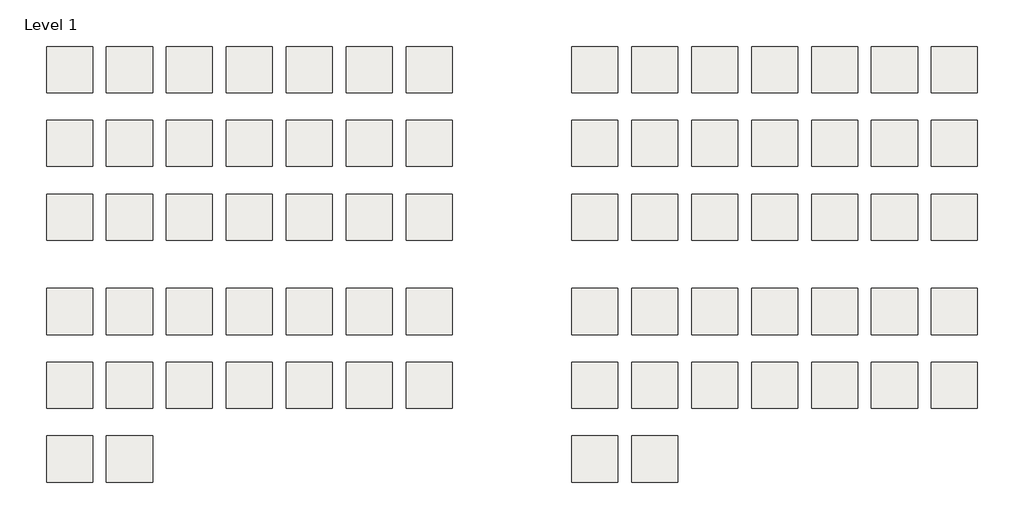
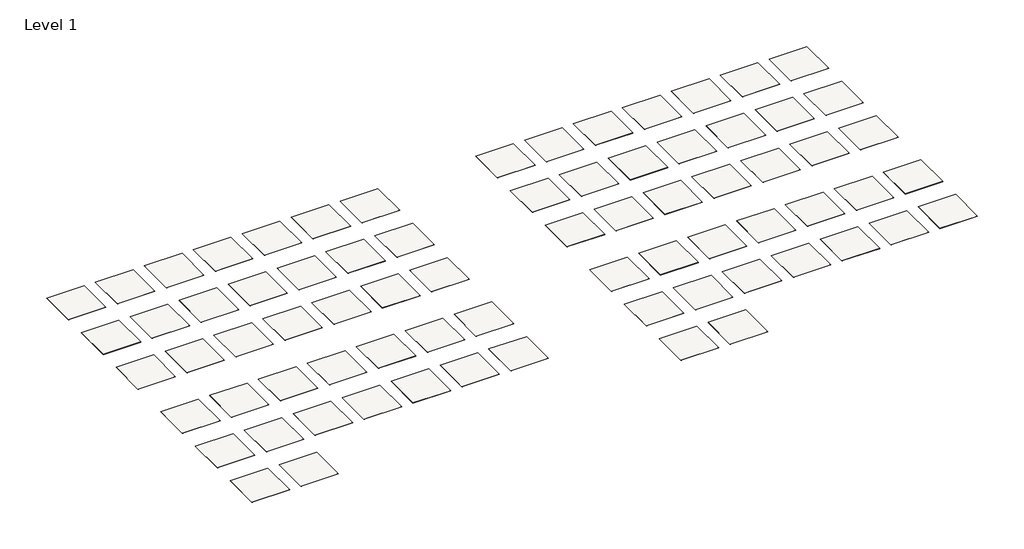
# One storey: 74 slabs.
"""IFC4 building model written with IfcOpenShell, lengths in millimetres."""

from ifc_helpers import new_model, si_unit, frame, origin, place, context, project, spatial, polyline, outline, extrude, element, save

model = new_model("IFC4")

# Units and contexts
model_context = context("Model", 3, world=origin())
ifc_project = project(units=[si_unit("LENGTHUNIT", "METRE", prefix="MILLI")], contexts=[model_context])

# Site, building, storey
site = spatial("IfcSite", under=ifc_project)
building = spatial("IfcBuilding", under=site)
storey = spatial("IfcBuildingStorey", under=building, Name="Level 1", Elevation=0.0)

# Slabs
placement = place(None, origin())
element("IfcSlab", 1, ObjectType="Armstrong_VCT_Excelon Stonetex_52127 stone white", at=placement, inside=storey, context=model_context, shape_type="SweptSolid", body=[
    extrude(outline(polyline([(3311.6055838, 2884.7695431), (3311.6055838, 1360.7695431), (1787.6055838, 1360.7695431), (1787.6055838, 2884.7695431), (3311.6055838, 2884.7695431)])), frame((0.0, 0.0, -1.984375), z_axis=(0.0, 0.0, 1.0), x_axis=(1.0, 0.0, 0.0)), (0.0, 0.0, 1.0), 1.984375),
])
element("IfcSlab", 2, ObjectType="Armstrong_VCT_Excelon Stonetex_52140 chalk white", at=placement, inside=storey, context=model_context, shape_type="SweptSolid", body=[
    extrude(outline(polyline([(5292.8055838, 2884.7695431), (5292.8055838, 1360.7695431), (3768.8055838, 1360.7695431), (3768.8055838, 2884.7695431), (5292.8055838, 2884.7695431)])), frame((0.0, 0.0, -1.984375), z_axis=(0.0, 0.0, 1.0), x_axis=(1.0, 0.0, 0.0)), (0.0, 0.0, 1.0), 1.984375),
])
element("IfcSlab", 3, ObjectType="Armstrong_VCT_Excelon Stonetex_52125 granite gray", at=placement, inside=storey, context=model_context, shape_type="SweptSolid", body=[
    extrude(outline(polyline([(7274.0055838, 2884.7695431), (7274.0055838, 1360.7695431), (5750.0055838, 1360.7695431), (5750.0055838, 2884.7695431), (7274.0055838, 2884.7695431)])), frame((0.0, 0.0, -1.984375), z_axis=(0.0, 0.0, 1.0), x_axis=(1.0, 0.0, 0.0)), (0.0, 0.0, 1.0), 1.984375),
])
element("IfcSlab", 4, ObjectType="Armstrong_VCT_Excelon Stonetex_52122 pebble gray", at=placement, inside=storey, context=model_context, shape_type="SweptSolid", body=[
    extrude(outline(polyline([(9255.2055838, 2884.7695431), (9255.2055838, 1360.7695431), (7731.2055838, 1360.7695431), (7731.2055838, 2884.7695431), (9255.2055838, 2884.7695431)])), frame((0.0, 0.0, -1.984375), z_axis=(0.0, 0.0, 1.0), x_axis=(1.0, 0.0, 0.0)), (0.0, 0.0, 1.0), 1.984375),
])
element("IfcSlab", 5, ObjectType="Armstrong_VCT_Excelon Stonetex_52143 sandstone tan", at=placement, inside=storey, context=model_context, shape_type="SweptSolid", body=[
    extrude(outline(polyline([(11236.4055838, 2884.7695431), (11236.4055838, 1360.7695431), (9712.4055838, 1360.7695431), (9712.4055838, 2884.7695431), (11236.4055838, 2884.7695431)])), frame((0.0, 0.0, -1.984375), z_axis=(0.0, 0.0, 1.0), x_axis=(1.0, 0.0, 0.0)), (0.0, 0.0, 1.0), 1.984375),
])
element("IfcSlab", 6, ObjectType="Armstrong_VCT_Excelon Stonetex_52128 desert dust", at=placement, inside=storey, context=model_context, shape_type="SweptSolid", body=[
    extrude(outline(polyline([(13217.6055838, 2884.7695431), (13217.6055838, 1360.7695431), (11693.6055838, 1360.7695431), (11693.6055838, 2884.7695431), (13217.6055838, 2884.7695431)])), frame((0.0, 0.0, -1.984375), z_axis=(0.0, 0.0, 1.0), x_axis=(1.0, 0.0, 0.0)), (0.0, 0.0, 1.0), 1.984375),
])
element("IfcSlab", 7, ObjectType="Armstrong_VCT_Excelon Stonetex_52165 milky way", at=placement, inside=storey, context=model_context, shape_type="SweptSolid", body=[
    extrude(outline(polyline([(15198.8055838, 2884.7695431), (15198.8055838, 1360.7695431), (13674.8055838, 1360.7695431), (13674.8055838, 2884.7695431), (15198.8055838, 2884.7695431)])), frame((0.0, 0.0, -1.984375), z_axis=(0.0, 0.0, 1.0), x_axis=(1.0, 0.0, 0.0)), (0.0, 0.0, 1.0), 1.984375),
])
element("IfcSlab", 8, ObjectType="Armstrong_VCT_Excelon Stonetex_52139 limestone beige", at=placement, inside=storey, context=model_context, shape_type="SweptSolid", body=[
    extrude(outline(polyline([(3311.6055838, 446.3695431), (3311.6055838, -1077.6304569), (1787.6055838, -1077.6304569), (1787.6055838, 446.3695431), (3311.6055838, 446.3695431)])), frame((0.0, 0.0, -1.984375), z_axis=(0.0, 0.0, 1.0), x_axis=(1.0, 0.0, 0.0)), (0.0, 0.0, 1.0), 1.984375),
])
element("IfcSlab", 9, ObjectType="Armstrong_VCT_Excelon Stonetex_52126 gravel blue", at=placement, inside=storey, context=model_context, shape_type="SweptSolid", body=[
    extrude(outline(polyline([(5292.8055838, 446.3695431), (5292.8055838, -1077.6304569), (3768.8055838, -1077.6304569), (3768.8055838, 446.3695431), (5292.8055838, 446.3695431)])), frame((0.0, 0.0, -1.984375), z_axis=(0.0, 0.0, 1.0), x_axis=(1.0, 0.0, 0.0)), (0.0, 0.0, 1.0), 1.984375),
])
element("IfcSlab", 10, ObjectType="Armstrong_VCT_Excelon Stonetex_52161 charcoal", at=placement, inside=storey, context=model_context, shape_type="SweptSolid", body=[
    extrude(outline(polyline([(7274.0055838, 446.3695431), (7274.0055838, -1077.6304569), (5750.0055838, -1077.6304569), (5750.0055838, 446.3695431), (7274.0055838, 446.3695431)])), frame((0.0, 0.0, -1.984375), z_axis=(0.0, 0.0, 1.0), x_axis=(1.0, 0.0, 0.0)), (0.0, 0.0, 1.0), 1.984375),
])
element("IfcSlab", 11, ObjectType="Armstrong_VCT_Excelon Stonetex_52149 cocoa brown", at=placement, inside=storey, context=model_context, shape_type="SweptSolid", body=[
    extrude(outline(polyline([(9255.2055838, 446.3695431), (9255.2055838, -1077.6304569), (7731.2055838, -1077.6304569), (7731.2055838, 446.3695431), (9255.2055838, 446.3695431)])), frame((0.0, 0.0, -3.175), z_axis=(0.0, 0.0, 1.0), x_axis=(1.0, 0.0, 0.0)), (0.0, 0.0, 1.0), 3.175),
])
element("IfcSlab", 12, ObjectType="Armstrong_VCT_Excelon Stonetex_52168 golden fossil", at=placement, inside=storey, context=model_context, shape_type="SweptSolid", body=[
    extrude(outline(polyline([(11236.4055838, 446.3695431), (11236.4055838, -1077.6304569), (9712.4055838, -1077.6304569), (9712.4055838, 446.3695431), (11236.4055838, 446.3695431)])), frame((0.0, 0.0, -1.984375), z_axis=(0.0, 0.0, 1.0), x_axis=(1.0, 0.0, 0.0)), (0.0, 0.0, 1.0), 1.984375),
])
element("IfcSlab", 13, ObjectType="Armstrong_VCT_Excelon Stonetex_52166 mochaccino", at=placement, inside=storey, context=model_context, shape_type="SweptSolid", body=[
    extrude(outline(polyline([(13217.6055838, 446.3695431), (13217.6055838, -1077.6304569), (11693.6055838, -1077.6304569), (11693.6055838, 446.3695431), (13217.6055838, 446.3695431)])), frame((0.0, 0.0, -1.984375), z_axis=(0.0, 0.0, 1.0), x_axis=(1.0, 0.0, 0.0)), (0.0, 0.0, 1.0), 1.984375),
])
element("IfcSlab", 14, ObjectType="Armstrong_VCT_Excelon Stonetex_52156 bamboo yellow", at=placement, inside=storey, context=model_context, shape_type="SweptSolid", body=[
    extrude(outline(polyline([(15198.8055838, 446.3695431), (15198.8055838, -1077.6304569), (13674.8055838, -1077.6304569), (13674.8055838, 446.3695431), (15198.8055838, 446.3695431)])), frame((0.0, 0.0, -1.984375), z_axis=(0.0, 0.0, 1.0), x_axis=(1.0, 0.0, 0.0)), (0.0, 0.0, 1.0), 1.984375),
])
element("IfcSlab", 15, ObjectType="Armstrong_VCT_Excelon Stonetex_52160 hematite", at=placement, inside=storey, context=model_context, shape_type="SweptSolid", body=[
    extrude(outline(polyline([(3311.6055838, -1992.0304569), (3311.6055838, -3516.0304569), (1787.6055838, -3516.0304569), (1787.6055838, -1992.0304569), (3311.6055838, -1992.0304569)])), frame((0.0, 0.0, -1.984375), z_axis=(0.0, 0.0, 1.0), x_axis=(1.0, 0.0, 0.0)), (0.0, 0.0, 1.0), 1.984375),
])
element("IfcSlab", 16, ObjectType="Armstrong_VCT_Excelon Stonetex_52144 coal black", at=placement, inside=storey, context=model_context, shape_type="SweptSolid", body=[
    extrude(outline(polyline([(5292.8055838, -1992.0304569), (5292.8055838, -3516.0304569), (3768.8055838, -3516.0304569), (3768.8055838, -1992.0304569), (5292.8055838, -1992.0304569)])), frame((0.0, 0.0, -1.984375), z_axis=(0.0, 0.0, 1.0), x_axis=(1.0, 0.0, 0.0)), (0.0, 0.0, 1.0), 1.984375),
])
element("IfcSlab", 17, ObjectType="Armstrong_VCT_Excelon Stonetex_52147 pumice stone", at=placement, inside=storey, context=model_context, shape_type="SweptSolid", body=[
    extrude(outline(polyline([(7274.0055838, -1992.0304569), (7274.0055838, -3516.0304569), (5750.0055838, -3516.0304569), (5750.0055838, -1992.0304569), (7274.0055838, -1992.0304569)])), frame((0.0, 0.0, -1.984375), z_axis=(0.0, 0.0, 1.0), x_axis=(1.0, 0.0, 0.0)), (0.0, 0.0, 1.0), 1.984375),
])
element("IfcSlab", 18, ObjectType="Armstrong_VCT_Excelon Stonetex_52164 dark chocolate", at=placement, inside=storey, context=model_context, shape_type="SweptSolid", body=[
    extrude(outline(polyline([(9255.2055838, -1992.0304569), (9255.2055838, -3516.0304569), (7731.2055838, -3516.0304569), (7731.2055838, -1992.0304569), (9255.2055838, -1992.0304569)])), frame((0.0, 0.0, -1.984375), z_axis=(0.0, 0.0, 1.0), x_axis=(1.0, 0.0, 0.0)), (0.0, 0.0, 1.0), 1.984375),
])
element("IfcSlab", 19, ObjectType="Armstrong_VCT_Excelon Stonetex_52169 ammonite", at=placement, inside=storey, context=model_context, shape_type="SweptSolid", body=[
    extrude(outline(polyline([(11236.4055838, -1992.0304569), (11236.4055838, -3516.0304569), (9712.4055838, -3516.0304569), (9712.4055838, -1992.0304569), (11236.4055838, -1992.0304569)])), frame((0.0, 0.0, -1.984375), z_axis=(0.0, 0.0, 1.0), x_axis=(1.0, 0.0, 0.0)), (0.0, 0.0, 1.0), 1.984375),
])
element("IfcSlab", 20, ObjectType="Armstrong_VCT_Excelon Stonetex_52167 semi sweet", at=placement, inside=storey, context=model_context, shape_type="SweptSolid", body=[
    extrude(outline(polyline([(13217.6055838, -1992.0304569), (13217.6055838, -3516.0304569), (11693.6055838, -3516.0304569), (11693.6055838, -1992.0304569), (13217.6055838, -1992.0304569)])), frame((0.0, 0.0, -1.984375), z_axis=(0.0, 0.0, 1.0), x_axis=(1.0, 0.0, 0.0)), (0.0, 0.0, 1.0), 1.984375),
])
element("IfcSlab", 21, ObjectType="Armstrong_VCT_Excelon Stonetex_52170 golden bamboo", at=placement, inside=storey, context=model_context, shape_type="SweptSolid", body=[
    extrude(outline(polyline([(15198.8055838, -1992.0304569), (15198.8055838, -3516.0304569), (13674.8055838, -3516.0304569), (13674.8055838, -1992.0304569), (15198.8055838, -1992.0304569)])), frame((0.0, 0.0, -1.984375), z_axis=(0.0, 0.0, 1.0), x_axis=(1.0, 0.0, 0.0)), (0.0, 0.0, 1.0), 1.984375),
])
element("IfcSlab", 22, ObjectType="Armstrong_VCT_Excelon Stonetex_52172 chamotte", at=placement, inside=storey, context=model_context, shape_type="SweptSolid", body=[
    extrude(outline(polyline([(3311.6055838, -5116.2304569), (3311.6055838, -6640.2304569), (1787.6055838, -6640.2304569), (1787.6055838, -5116.2304569), (3311.6055838, -5116.2304569)])), frame((0.0, 0.0, -1.984375), z_axis=(0.0, 0.0, 1.0), x_axis=(1.0, 0.0, 0.0)), (0.0, 0.0, 1.0), 1.984375),
])
element("IfcSlab", 23, ObjectType="Armstrong_VCT_Excelon Stonetex_52148 blue spruce", at=placement, inside=storey, context=model_context, shape_type="SweptSolid", body=[
    extrude(outline(polyline([(5292.8055838, -5116.2304569), (5292.8055838, -6640.2304569), (3768.8055838, -6640.2304569), (3768.8055838, -5116.2304569), (5292.8055838, -5116.2304569)])), frame((0.0, 0.0, -1.984375), z_axis=(0.0, 0.0, 1.0), x_axis=(1.0, 0.0, 0.0)), (0.0, 0.0, 1.0), 1.984375),
])
element("IfcSlab", 24, ObjectType="Armstrong_VCT_Excelon Stonetex_52180 spanish moss", at=placement, inside=storey, context=model_context, shape_type="SweptSolid", body=[
    extrude(outline(polyline([(7274.0055838, -5116.2304569), (7274.0055838, -6640.2304569), (5750.0055838, -6640.2304569), (5750.0055838, -5116.2304569), (7274.0055838, -5116.2304569)])), frame((0.0, 0.0, -1.984375), z_axis=(0.0, 0.0, 1.0), x_axis=(1.0, 0.0, 0.0)), (0.0, 0.0, 1.0), 1.984375),
])
element("IfcSlab", 25, ObjectType="Armstrong_VCT_Excelon Stonetex_52173 unfired clay", at=placement, inside=storey, context=model_context, shape_type="SweptSolid", body=[
    extrude(outline(polyline([(9255.2055838, -5116.2304569), (9255.2055838, -6640.2304569), (7731.2055838, -6640.2304569), (7731.2055838, -5116.2304569), (9255.2055838, -5116.2304569)])), frame((0.0, 0.0, -1.984375), z_axis=(0.0, 0.0, 1.0), x_axis=(1.0, 0.0, 0.0)), (0.0, 0.0, 1.0), 1.984375),
])
element("IfcSlab", 26, ObjectType="Armstrong_VCT_Excelon Stonetex_52135 mineral dust", at=placement, inside=storey, context=model_context, shape_type="SweptSolid", body=[
    extrude(outline(polyline([(11236.4055838, -5116.2304569), (11236.4055838, -6640.2304569), (9712.4055838, -6640.2304569), (9712.4055838, -5116.2304569), (11236.4055838, -5116.2304569)])), frame((0.0, 0.0, -1.984375), z_axis=(0.0, 0.0, 1.0), x_axis=(1.0, 0.0, 0.0)), (0.0, 0.0, 1.0), 1.984375),
])
element("IfcSlab", 27, ObjectType="Armstrong_VCT_Excelon Stonetex_52155 forest moss", at=placement, inside=storey, context=model_context, shape_type="SweptSolid", body=[
    extrude(outline(polyline([(13217.6055838, -5116.2304569), (13217.6055838, -6640.2304569), (11693.6055838, -6640.2304569), (11693.6055838, -5116.2304569), (13217.6055838, -5116.2304569)])), frame((0.0, 0.0, -1.984375), z_axis=(0.0, 0.0, 1.0), x_axis=(1.0, 0.0, 0.0)), (0.0, 0.0, 1.0), 1.984375),
])
element("IfcSlab", 28, ObjectType="Armstrong_VCT_Excelon Stonetex_52157 clay red", at=placement, inside=storey, context=model_context, shape_type="SweptSolid", body=[
    extrude(outline(polyline([(15198.8055838, -5116.2304569), (15198.8055838, -6640.2304569), (13674.8055838, -6640.2304569), (13674.8055838, -5116.2304569), (15198.8055838, -5116.2304569)])), frame((0.0, 0.0, -1.984375), z_axis=(0.0, 0.0, 1.0), x_axis=(1.0, 0.0, 0.0)), (0.0, 0.0, 1.0), 1.984375),
])
element("IfcSlab", 29, ObjectType="Armstrong_VCT_Excelon Stonetex_52179 black jewel orchid", at=placement, inside=storey, context=model_context, shape_type="SweptSolid", body=[
    extrude(outline(polyline([(3311.6055838, -7554.6304569), (3311.6055838, -9078.6304569), (1787.6055838, -9078.6304569), (1787.6055838, -7554.6304569), (3311.6055838, -7554.6304569)])), frame((0.0, 0.0, -1.984375), z_axis=(0.0, 0.0, 1.0), x_axis=(1.0, 0.0, 0.0)), (0.0, 0.0, 1.0), 1.984375),
])
element("IfcSlab", 30, ObjectType="Armstrong_VCT_Excelon Stonetex_52148 blue spruce", at=placement, inside=storey, context=model_context, shape_type="SweptSolid", body=[
    extrude(outline(polyline([(5292.8055838, -7554.6304569), (5292.8055838, -9078.6304569), (3768.8055838, -9078.6304569), (3768.8055838, -7554.6304569), (5292.8055838, -7554.6304569)])), frame((0.0, 0.0, -1.984375), z_axis=(0.0, 0.0, 1.0), x_axis=(1.0, 0.0, 0.0)), (0.0, 0.0, 1.0), 1.984375),
])
element("IfcSlab", 31, ObjectType="Armstrong_VCT_Excelon Stonetex_52154 leaf green", at=placement, inside=storey, context=model_context, shape_type="SweptSolid", body=[
    extrude(outline(polyline([(7274.0055838, -7554.6304569), (7274.0055838, -9078.6304569), (5750.0055838, -9078.6304569), (5750.0055838, -7554.6304569), (7274.0055838, -7554.6304569)])), frame((0.0, 0.0, -1.984375), z_axis=(0.0, 0.0, 1.0), x_axis=(1.0, 0.0, 0.0)), (0.0, 0.0, 1.0), 1.984375),
])
element("IfcSlab", 32, ObjectType="Armstrong_VCT_Excelon Stonetex_52183 golden honey", at=placement, inside=storey, context=model_context, shape_type="SweptSolid", body=[
    extrude(outline(polyline([(9255.2055838, -7554.6304569), (9255.2055838, -9078.6304569), (7731.2055838, -9078.6304569), (7731.2055838, -7554.6304569), (9255.2055838, -7554.6304569)])), frame((0.0, 0.0, -1.984375), z_axis=(0.0, 0.0, 1.0), x_axis=(1.0, 0.0, 0.0)), (0.0, 0.0, 1.0), 1.984375),
])
element("IfcSlab", 33, ObjectType="Armstrong_VCT_Excelon Stonetex_52186 hermit shale", at=placement, inside=storey, context=model_context, shape_type="SweptSolid", body=[
    extrude(outline(polyline([(11236.4055838, -7554.6304569), (11236.4055838, -9078.6304569), (9712.4055838, -9078.6304569), (9712.4055838, -7554.6304569), (11236.4055838, -7554.6304569)])), frame((0.0, 0.0, -1.984375), z_axis=(0.0, 0.0, 1.0), x_axis=(1.0, 0.0, 0.0)), (0.0, 0.0, 1.0), 1.984375),
])
element("IfcSlab", 34, ObjectType="Armstrong_VCT_Excelon Stonetex_52189 roman clay", at=placement, inside=storey, context=model_context, shape_type="SweptSolid", body=[
    extrude(outline(polyline([(13217.6055838, -7554.6304569), (13217.6055838, -9078.6304569), (11693.6055838, -9078.6304569), (11693.6055838, -7554.6304569), (13217.6055838, -7554.6304569)])), frame((0.0, 0.0, -1.984375), z_axis=(0.0, 0.0, 1.0), x_axis=(1.0, 0.0, 0.0)), (0.0, 0.0, 1.0), 1.984375),
])
element("IfcSlab", 35, ObjectType="Armstrong_VCT_Excelon Stonetex_52194 lapis", at=placement, inside=storey, context=model_context, shape_type="SweptSolid", body=[
    extrude(outline(polyline([(15198.8055838, -7554.6304569), (15198.8055838, -9078.6304569), (13674.8055838, -9078.6304569), (13674.8055838, -7554.6304569), (15198.8055838, -7554.6304569)])), frame((0.0, 0.0, -1.984375), z_axis=(0.0, 0.0, 1.0), x_axis=(1.0, 0.0, 0.0)), (0.0, 0.0, 1.0), 1.984375),
])
element("IfcSlab", 36, ObjectType="Armstrong_VCT_Excelon Stonetex_52199 iguana", at=placement, inside=storey, context=model_context, shape_type="SweptSolid", body=[
    extrude(outline(polyline([(3311.6055838, -9993.0304569), (3311.6055838, -11517.0304569), (1787.6055838, -11517.0304569), (1787.6055838, -9993.0304569), (3311.6055838, -9993.0304569)])), frame((0.0, 0.0, -1.984375), z_axis=(0.0, 0.0, 1.0), x_axis=(1.0, 0.0, 0.0)), (0.0, 0.0, 1.0), 1.984375),
])
element("IfcSlab", 37, ObjectType="Armstrong_VCT_Excelon Stonetex_52202 lime rickey", at=placement, inside=storey, context=model_context, shape_type="SweptSolid", body=[
    extrude(outline(polyline([(5292.8055838, -9993.0304569), (5292.8055838, -11517.0304569), (3768.8055838, -11517.0304569), (3768.8055838, -9993.0304569), (5292.8055838, -9993.0304569)])), frame((0.0, 0.0, -1.984375), z_axis=(0.0, 0.0, 1.0), x_axis=(1.0, 0.0, 0.0)), (0.0, 0.0, 1.0), 1.984375),
])
element("IfcSlab", 38, ObjectType="Armstrong_VCT_Excelon Stonetex_52127 stone white (18\"x18\")", at=placement, inside=storey, context=model_context, shape_type="SweptSolid", body=[
    extrude(outline(polyline([(20685.2055838, 2884.7695431), (20685.2055838, 1360.7695431), (19161.2055838, 1360.7695431), (19161.2055838, 2884.7695431), (20685.2055838, 2884.7695431)])), frame((0.0, 0.0, -3.175), z_axis=(0.0, 0.0, 1.0), x_axis=(1.0, 0.0, 0.0)), (0.0, 0.0, 1.0), 3.175),
])
element("IfcSlab", 39, ObjectType="Armstrong_VCT_Excelon Stonetex_52140 chalk white (18\"x18\")", at=placement, inside=storey, context=model_context, shape_type="SweptSolid", body=[
    extrude(outline(polyline([(22666.4055838, 2884.7695431), (22666.4055838, 1360.7695431), (21142.4055838, 1360.7695431), (21142.4055838, 2884.7695431), (22666.4055838, 2884.7695431)])), frame((0.0, 0.0, -3.175), z_axis=(0.0, 0.0, 1.0), x_axis=(1.0, 0.0, 0.0)), (0.0, 0.0, 1.0), 3.175),
])
element("IfcSlab", 40, ObjectType="Armstrong_VCT_Excelon Stonetex_52125 granite gray (18\"x18\")", at=placement, inside=storey, context=model_context, shape_type="SweptSolid", body=[
    extrude(outline(polyline([(24647.6055838, 2884.7695431), (24647.6055838, 1360.7695431), (23123.6055838, 1360.7695431), (23123.6055838, 2884.7695431), (24647.6055838, 2884.7695431)])), frame((0.0, 0.0, -3.175), z_axis=(0.0, 0.0, 1.0), x_axis=(1.0, 0.0, 0.0)), (0.0, 0.0, 1.0), 3.175),
])
element("IfcSlab", 41, ObjectType="Armstrong_VCT_Excelon Stonetex_52122 pebble gray (18\"x18\")", at=placement, inside=storey, context=model_context, shape_type="SweptSolid", body=[
    extrude(outline(polyline([(26628.8055838, 2884.7695431), (26628.8055838, 1360.7695431), (25104.8055838, 1360.7695431), (25104.8055838, 2884.7695431), (26628.8055838, 2884.7695431)])), frame((0.0, 0.0, -3.175), z_axis=(0.0, 0.0, 1.0), x_axis=(1.0, 0.0, 0.0)), (0.0, 0.0, 1.0), 3.175),
])
element("IfcSlab", 42, ObjectType="Armstrong_VCT_Excelon Stonetex_52143 sandstone tan (18\"x18\")", at=placement, inside=storey, context=model_context, shape_type="SweptSolid", body=[
    extrude(outline(polyline([(28610.0055838, 2884.7695431), (28610.0055838, 1360.7695431), (27086.0055838, 1360.7695431), (27086.0055838, 2884.7695431), (28610.0055838, 2884.7695431)])), frame((0.0, 0.0, -3.175), z_axis=(0.0, 0.0, 1.0), x_axis=(1.0, 0.0, 0.0)), (0.0, 0.0, 1.0), 3.175),
])
element("IfcSlab", 43, ObjectType="Armstrong_VCT_Excelon Stonetex_52128 desert dust (18\"x18\")", at=placement, inside=storey, context=model_context, shape_type="SweptSolid", body=[
    extrude(outline(polyline([(30591.2055838, 2884.7695431), (30591.2055838, 1360.7695431), (29067.2055838, 1360.7695431), (29067.2055838, 2884.7695431), (30591.2055838, 2884.7695431)])), frame((0.0, 0.0, -3.175), z_axis=(0.0, 0.0, 1.0), x_axis=(1.0, 0.0, 0.0)), (0.0, 0.0, 1.0), 3.175),
])
element("IfcSlab", 44, ObjectType="Armstrong_VCT_Excelon Stonetex_52165 milky way (18\"x18\")", at=placement, inside=storey, context=model_context, shape_type="SweptSolid", body=[
    extrude(outline(polyline([(32572.4055838, 2884.7695431), (32572.4055838, 1360.7695431), (31048.4055838, 1360.7695431), (31048.4055838, 2884.7695431), (32572.4055838, 2884.7695431)])), frame((0.0, 0.0, -3.175), z_axis=(0.0, 0.0, 1.0), x_axis=(1.0, 0.0, 0.0)), (0.0, 0.0, 1.0), 3.175),
])
element("IfcSlab", 45, ObjectType="Armstrong_VCT_Excelon Stonetex_52139 limestone beige (18\"x18\")", at=placement, inside=storey, context=model_context, shape_type="SweptSolid", body=[
    extrude(outline(polyline([(20685.2055838, 446.3695431), (20685.2055838, -1077.6304569), (19161.2055838, -1077.6304569), (19161.2055838, 446.3695431), (20685.2055838, 446.3695431)])), frame((0.0, 0.0, -3.175), z_axis=(0.0, 0.0, 1.0), x_axis=(1.0, 0.0, 0.0)), (0.0, 0.0, 1.0), 3.175),
])
element("IfcSlab", 46, ObjectType="Armstrong_VCT_Excelon Stonetex_52126 gravel blue (18\"x18\")", at=placement, inside=storey, context=model_context, shape_type="SweptSolid", body=[
    extrude(outline(polyline([(22666.4055838, 446.3695431), (22666.4055838, -1077.6304569), (21142.4055838, -1077.6304569), (21142.4055838, 446.3695431), (22666.4055838, 446.3695431)])), frame((0.0, 0.0, -3.175), z_axis=(0.0, 0.0, 1.0), x_axis=(1.0, 0.0, 0.0)), (0.0, 0.0, 1.0), 3.175),
])
element("IfcSlab", 47, ObjectType="Armstrong_VCT_Excelon Stonetex_52161 charcoal (18\"x18\")", at=placement, inside=storey, context=model_context, shape_type="SweptSolid", body=[
    extrude(outline(polyline([(24647.6055838, 446.3695431), (24647.6055838, -1077.6304569), (23123.6055838, -1077.6304569), (23123.6055838, 446.3695431), (24647.6055838, 446.3695431)])), frame((0.0, 0.0, -3.175), z_axis=(0.0, 0.0, 1.0), x_axis=(1.0, 0.0, 0.0)), (0.0, 0.0, 1.0), 3.175),
])
element("IfcSlab", 48, ObjectType="Armstrong_VCT_Excelon Stonetex_52149 cocoa brown (18\"x18\")", at=placement, inside=storey, context=model_context, shape_type="SweptSolid", body=[
    extrude(outline(polyline([(26628.8055838, 446.3695431), (26628.8055838, -1077.6304569), (25104.8055838, -1077.6304569), (25104.8055838, 446.3695431), (26628.8055838, 446.3695431)])), frame((0.0, 0.0, -3.175), z_axis=(0.0, 0.0, 1.0), x_axis=(1.0, 0.0, 0.0)), (0.0, 0.0, 1.0), 3.175),
])
element("IfcSlab", 49, ObjectType="Armstrong_VCT_Excelon Stonetex_52168 golden fossil (18\"x18\")", at=placement, inside=storey, context=model_context, shape_type="SweptSolid", body=[
    extrude(outline(polyline([(28610.0055838, 446.3695431), (28610.0055838, -1077.6304569), (27086.0055838, -1077.6304569), (27086.0055838, 446.3695431), (28610.0055838, 446.3695431)])), frame((0.0, 0.0, -3.175), z_axis=(0.0, 0.0, 1.0), x_axis=(1.0, 0.0, 0.0)), (0.0, 0.0, 1.0), 3.175),
])
element("IfcSlab", 50, ObjectType="Armstrong_VCT_Excelon Stonetex_52166 mochaccino (18\"x18\")", at=placement, inside=storey, context=model_context, shape_type="SweptSolid", body=[
    extrude(outline(polyline([(30591.2055838, 446.3695431), (30591.2055838, -1077.6304569), (29067.2055838, -1077.6304569), (29067.2055838, 446.3695431), (30591.2055838, 446.3695431)])), frame((0.0, 0.0, -3.175), z_axis=(0.0, 0.0, 1.0), x_axis=(1.0, 0.0, 0.0)), (0.0, 0.0, 1.0), 3.175),
])
element("IfcSlab", 51, ObjectType="Armstrong_VCT_Excelon Stonetex_52156 bamboo yellow (18\"x18\")", at=placement, inside=storey, context=model_context, shape_type="SweptSolid", body=[
    extrude(outline(polyline([(32572.4055838, 446.3695431), (32572.4055838, -1077.6304569), (31048.4055838, -1077.6304569), (31048.4055838, 446.3695431), (32572.4055838, 446.3695431)])), frame((0.0, 0.0, -3.175), z_axis=(0.0, 0.0, 1.0), x_axis=(1.0, 0.0, 0.0)), (0.0, 0.0, 1.0), 3.175),
])
element("IfcSlab", 52, ObjectType="Armstrong_VCT_Excelon Stonetex_52160 hematite (18\"x18\")", at=placement, inside=storey, context=model_context, shape_type="SweptSolid", body=[
    extrude(outline(polyline([(20685.2055838, -1992.0304569), (20685.2055838, -3516.0304569), (19161.2055838, -3516.0304569), (19161.2055838, -1992.0304569), (20685.2055838, -1992.0304569)])), frame((0.0, 0.0, -3.175), z_axis=(0.0, 0.0, 1.0), x_axis=(1.0, 0.0, 0.0)), (0.0, 0.0, 1.0), 3.175),
])
element("IfcSlab", 53, ObjectType="Armstrong_VCT_Excelon Stonetex_52144 coal black (18\"x18\")", at=placement, inside=storey, context=model_context, shape_type="SweptSolid", body=[
    extrude(outline(polyline([(22666.4055838, -1992.0304569), (22666.4055838, -3516.0304569), (21142.4055838, -3516.0304569), (21142.4055838, -1992.0304569), (22666.4055838, -1992.0304569)])), frame((0.0, 0.0, -3.175), z_axis=(0.0, 0.0, 1.0), x_axis=(1.0, 0.0, 0.0)), (0.0, 0.0, 1.0), 3.175),
])
element("IfcSlab", 54, ObjectType="Armstrong_VCT_Excelon Stonetex_52147 pumice stone (18\"x18\")", at=placement, inside=storey, context=model_context, shape_type="SweptSolid", body=[
    extrude(outline(polyline([(24647.6055838, -1992.0304569), (24647.6055838, -3516.0304569), (23123.6055838, -3516.0304569), (23123.6055838, -1992.0304569), (24647.6055838, -1992.0304569)])), frame((0.0, 0.0, -3.175), z_axis=(0.0, 0.0, 1.0), x_axis=(1.0, 0.0, 0.0)), (0.0, 0.0, 1.0), 3.175),
])
element("IfcSlab", 55, ObjectType="Armstrong_VCT_Excelon Stonetex_52164 dark chocolate (18\"x18\")", at=placement, inside=storey, context=model_context, shape_type="SweptSolid", body=[
    extrude(outline(polyline([(26628.8055838, -1992.0304569), (26628.8055838, -3516.0304569), (25104.8055838, -3516.0304569), (25104.8055838, -1992.0304569), (26628.8055838, -1992.0304569)])), frame((0.0, 0.0, -3.175), z_axis=(0.0, 0.0, 1.0), x_axis=(1.0, 0.0, 0.0)), (0.0, 0.0, 1.0), 3.175),
])
element("IfcSlab", 56, ObjectType="Armstrong_VCT_Excelon Stonetex_52169 ammonite (18\"x18\")", at=placement, inside=storey, context=model_context, shape_type="SweptSolid", body=[
    extrude(outline(polyline([(28610.0055838, -1992.0304569), (28610.0055838, -3516.0304569), (27086.0055838, -3516.0304569), (27086.0055838, -1992.0304569), (28610.0055838, -1992.0304569)])), frame((0.0, 0.0, -3.175), z_axis=(0.0, 0.0, 1.0), x_axis=(1.0, 0.0, 0.0)), (0.0, 0.0, 1.0), 3.175),
])
element("IfcSlab", 57, ObjectType="Armstrong_VCT_Excelon Stonetex_52167 semi sweet (18\"x18\")", at=placement, inside=storey, context=model_context, shape_type="SweptSolid", body=[
    extrude(outline(polyline([(30591.2055838, -1992.0304569), (30591.2055838, -3516.0304569), (29067.2055838, -3516.0304569), (29067.2055838, -1992.0304569), (30591.2055838, -1992.0304569)])), frame((0.0, 0.0, -3.175), z_axis=(0.0, 0.0, 1.0), x_axis=(1.0, 0.0, 0.0)), (0.0, 0.0, 1.0), 3.175),
])
element("IfcSlab", 58, ObjectType="Armstrong_VCT_Excelon Stonetex_52170 golden bamboo (18\"x18\")", at=placement, inside=storey, context=model_context, shape_type="SweptSolid", body=[
    extrude(outline(polyline([(32572.4055838, -1992.0304569), (32572.4055838, -3516.0304569), (31048.4055838, -3516.0304569), (31048.4055838, -1992.0304569), (32572.4055838, -1992.0304569)])), frame((0.0, 0.0, -3.175), z_axis=(0.0, 0.0, 1.0), x_axis=(1.0, 0.0, 0.0)), (0.0, 0.0, 1.0), 3.175),
])
element("IfcSlab", 59, ObjectType="Armstrong_VCT_Excelon Stonetex_52172 chamotte (18\"x18\")", at=placement, inside=storey, context=model_context, shape_type="SweptSolid", body=[
    extrude(outline(polyline([(20685.2055838, -5116.2304569), (20685.2055838, -6640.2304569), (19161.2055838, -6640.2304569), (19161.2055838, -5116.2304569), (20685.2055838, -5116.2304569)])), frame((0.0, 0.0, -3.175), z_axis=(0.0, 0.0, 1.0), x_axis=(1.0, 0.0, 0.0)), (0.0, 0.0, 1.0), 3.175),
])
element("IfcSlab", 60, ObjectType="Armstrong_VCT_Excelon Stonetex_52148 blue spruce (18\"x18\")", at=placement, inside=storey, context=model_context, shape_type="SweptSolid", body=[
    extrude(outline(polyline([(22666.4055838, -5116.2304569), (22666.4055838, -6640.2304569), (21142.4055838, -6640.2304569), (21142.4055838, -5116.2304569), (22666.4055838, -5116.2304569)])), frame((0.0, 0.0, -3.175), z_axis=(0.0, 0.0, 1.0), x_axis=(1.0, 0.0, 0.0)), (0.0, 0.0, 1.0), 3.175),
])
element("IfcSlab", 61, ObjectType="Armstrong_VCT_Excelon Stonetex_52180 spanish moss (18\"x18\")", at=placement, inside=storey, context=model_context, shape_type="SweptSolid", body=[
    extrude(outline(polyline([(24647.6055838, -5116.2304569), (24647.6055838, -6640.2304569), (23123.6055838, -6640.2304569), (23123.6055838, -5116.2304569), (24647.6055838, -5116.2304569)])), frame((0.0, 0.0, -3.175), z_axis=(0.0, 0.0, 1.0), x_axis=(1.0, 0.0, 0.0)), (0.0, 0.0, 1.0), 3.175),
])
element("IfcSlab", 62, ObjectType="Armstrong_VCT_Excelon Stonetex_52173 unfired clay (18\"x18\")", at=placement, inside=storey, context=model_context, shape_type="SweptSolid", body=[
    extrude(outline(polyline([(26628.8055838, -5116.2304569), (26628.8055838, -6640.2304569), (25104.8055838, -6640.2304569), (25104.8055838, -5116.2304569), (26628.8055838, -5116.2304569)])), frame((0.0, 0.0, -3.175), z_axis=(0.0, 0.0, 1.0), x_axis=(1.0, 0.0, 0.0)), (0.0, 0.0, 1.0), 3.175),
])
element("IfcSlab", 63, ObjectType="Armstrong_VCT_Excelon Stonetex_52135 mineral dust (18\"x18\")", at=placement, inside=storey, context=model_context, shape_type="SweptSolid", body=[
    extrude(outline(polyline([(28610.0055838, -5116.2304569), (28610.0055838, -6640.2304569), (27086.0055838, -6640.2304569), (27086.0055838, -5116.2304569), (28610.0055838, -5116.2304569)])), frame((0.0, 0.0, -3.175), z_axis=(0.0, 0.0, 1.0), x_axis=(1.0, 0.0, 0.0)), (0.0, 0.0, 1.0), 3.175),
])
element("IfcSlab", 64, ObjectType="Armstrong_VCT_Excelon Stonetex_52155 forest moss (18\"x18\")", at=placement, inside=storey, context=model_context, shape_type="SweptSolid", body=[
    extrude(outline(polyline([(30591.2055838, -5116.2304569), (30591.2055838, -6640.2304569), (29067.2055838, -6640.2304569), (29067.2055838, -5116.2304569), (30591.2055838, -5116.2304569)])), frame((0.0, 0.0, -3.175), z_axis=(0.0, 0.0, 1.0), x_axis=(1.0, 0.0, 0.0)), (0.0, 0.0, 1.0), 3.175),
])
element("IfcSlab", 65, ObjectType="Armstrong_VCT_Excelon Stonetex_52157 clay red (18\"x18\")", at=placement, inside=storey, context=model_context, shape_type="SweptSolid", body=[
    extrude(outline(polyline([(32572.4055838, -5116.2304569), (32572.4055838, -6640.2304569), (31048.4055838, -6640.2304569), (31048.4055838, -5116.2304569), (32572.4055838, -5116.2304569)])), frame((0.0, 0.0, -3.175), z_axis=(0.0, 0.0, 1.0), x_axis=(1.0, 0.0, 0.0)), (0.0, 0.0, 1.0), 3.175),
])
element("IfcSlab", 66, ObjectType="Armstrong_VCT_Excelon Stonetex_52179 black jewel orchid (18\"x18\")", at=placement, inside=storey, context=model_context, shape_type="SweptSolid", body=[
    extrude(outline(polyline([(20685.2055838, -7554.6304569), (20685.2055838, -9078.6304569), (19161.2055838, -9078.6304569), (19161.2055838, -7554.6304569), (20685.2055838, -7554.6304569)])), frame((0.0, 0.0, -3.175), z_axis=(0.0, 0.0, 1.0), x_axis=(1.0, 0.0, 0.0)), (0.0, 0.0, 1.0), 3.175),
])
element("IfcSlab", 67, ObjectType="Armstrong_VCT_Excelon Stonetex_52148 blue spruce (18\"x18\")", at=placement, inside=storey, context=model_context, shape_type="SweptSolid", body=[
    extrude(outline(polyline([(22666.4055838, -7554.6304569), (22666.4055838, -9078.6304569), (21142.4055838, -9078.6304569), (21142.4055838, -7554.6304569), (22666.4055838, -7554.6304569)])), frame((0.0, 0.0, -3.175), z_axis=(0.0, 0.0, 1.0), x_axis=(1.0, 0.0, 0.0)), (0.0, 0.0, 1.0), 3.175),
])
element("IfcSlab", 68, ObjectType="Armstrong_VCT_Excelon Stonetex_52154 leaf green (18\"x18\")", at=placement, inside=storey, context=model_context, shape_type="SweptSolid", body=[
    extrude(outline(polyline([(24647.6055838, -7554.6304569), (24647.6055838, -9078.6304569), (23123.6055838, -9078.6304569), (23123.6055838, -7554.6304569), (24647.6055838, -7554.6304569)])), frame((0.0, 0.0, -3.175), z_axis=(0.0, 0.0, 1.0), x_axis=(1.0, 0.0, 0.0)), (0.0, 0.0, 1.0), 3.175),
])
element("IfcSlab", 69, ObjectType="Armstrong_VCT_Excelon Stonetex_52183 golden honey (18\"x18\")", at=placement, inside=storey, context=model_context, shape_type="SweptSolid", body=[
    extrude(outline(polyline([(26628.8055838, -7554.6304569), (26628.8055838, -9078.6304569), (25104.8055838, -9078.6304569), (25104.8055838, -7554.6304569), (26628.8055838, -7554.6304569)])), frame((0.0, 0.0, -3.175), z_axis=(0.0, 0.0, 1.0), x_axis=(1.0, 0.0, 0.0)), (0.0, 0.0, 1.0), 3.175),
])
element("IfcSlab", 70, ObjectType="Armstrong_VCT_Excelon Stonetex_52186 hermit shale (18\"x18\")", at=placement, inside=storey, context=model_context, shape_type="SweptSolid", body=[
    extrude(outline(polyline([(28610.0055838, -7554.6304569), (28610.0055838, -9078.6304569), (27086.0055838, -9078.6304569), (27086.0055838, -7554.6304569), (28610.0055838, -7554.6304569)])), frame((0.0, 0.0, -3.175), z_axis=(0.0, 0.0, 1.0), x_axis=(1.0, 0.0, 0.0)), (0.0, 0.0, 1.0), 3.175),
])
element("IfcSlab", 71, ObjectType="Armstrong_VCT_Excelon Stonetex_52189 roman clay (18\"x18\")", at=placement, inside=storey, context=model_context, shape_type="SweptSolid", body=[
    extrude(outline(polyline([(30591.2055838, -7554.6304569), (30591.2055838, -9078.6304569), (29067.2055838, -9078.6304569), (29067.2055838, -7554.6304569), (30591.2055838, -7554.6304569)])), frame((0.0, 0.0, -3.175), z_axis=(0.0, 0.0, 1.0), x_axis=(1.0, 0.0, 0.0)), (0.0, 0.0, 1.0), 3.175),
])
element("IfcSlab", 72, ObjectType="Armstrong_VCT_Excelon Stonetex_52194 lapis (18\"x18\")", at=placement, inside=storey, context=model_context, shape_type="SweptSolid", body=[
    extrude(outline(polyline([(32572.4055838, -7554.6304569), (32572.4055838, -9078.6304569), (31048.4055838, -9078.6304569), (31048.4055838, -7554.6304569), (32572.4055838, -7554.6304569)])), frame((0.0, 0.0, -3.175), z_axis=(0.0, 0.0, 1.0), x_axis=(1.0, 0.0, 0.0)), (0.0, 0.0, 1.0), 3.175),
])
element("IfcSlab", 73, ObjectType="Armstrong_VCT_Excelon Stonetex_52199 iguana (18\"x18\")", at=placement, inside=storey, context=model_context, shape_type="SweptSolid", body=[
    extrude(outline(polyline([(20685.2055838, -9993.0304569), (20685.2055838, -11517.0304569), (19161.2055838, -11517.0304569), (19161.2055838, -9993.0304569), (20685.2055838, -9993.0304569)])), frame((0.0, 0.0, -3.175), z_axis=(0.0, 0.0, 1.0), x_axis=(1.0, 0.0, 0.0)), (0.0, 0.0, 1.0), 3.175),
])
element("IfcSlab", 74, ObjectType="Armstrong_VCT_Excelon Stonetex_52202 lime rickey (18\"x18\")", at=placement, inside=storey, context=model_context, shape_type="SweptSolid", body=[
    extrude(outline(polyline([(22666.4055838, -9993.0304569), (22666.4055838, -11517.0304569), (21142.4055838, -11517.0304569), (21142.4055838, -9993.0304569), (22666.4055838, -9993.0304569)])), frame((0.0, 0.0, -3.175), z_axis=(0.0, 0.0, 1.0), x_axis=(1.0, 0.0, 0.0)), (0.0, 0.0, 1.0), 3.175),
])

save(model, "model.ifc")
